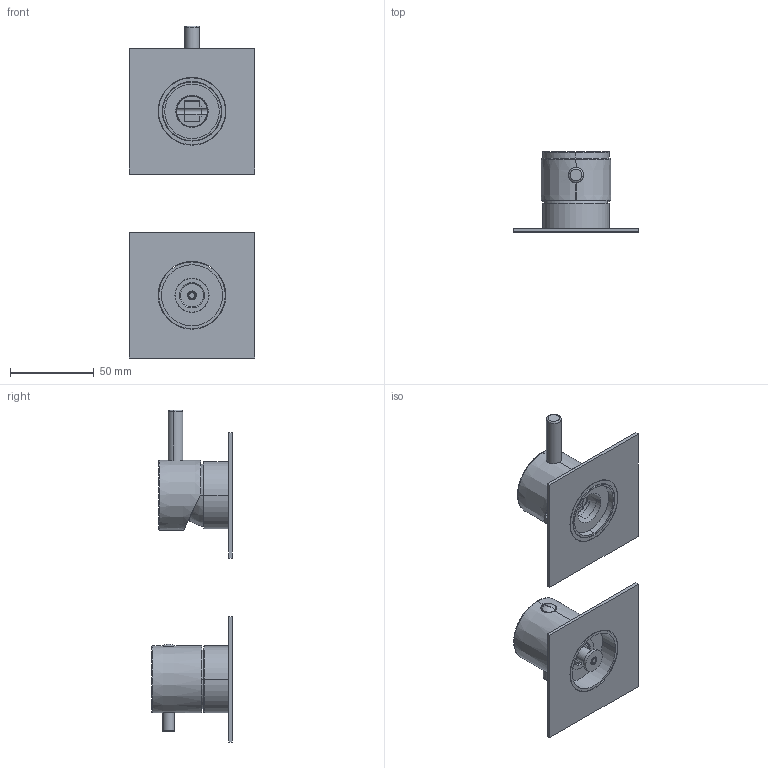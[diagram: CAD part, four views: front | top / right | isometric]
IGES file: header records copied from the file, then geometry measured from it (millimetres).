
Start section:  PTC IGES file: 12563v2_sw0001.igs
Global section: file name: 12563v2_sw0001.igs; native system: Creo Parametric by PTC Inc.; preprocessor: 2022014; author: volponeff; organization: Unknown; date: 20241010.090019; units: millimetre
Bounding box: 75 x 48.1 x 198.5 mm (x, y, z)
Surface area: 69327.4 mm2 (no closed solid volume)
Topology: 0 solids, 0 shells, 753 faces, 4170 edges, 4162 vertices
Faces by surface type: revolution 450, bspline 303
